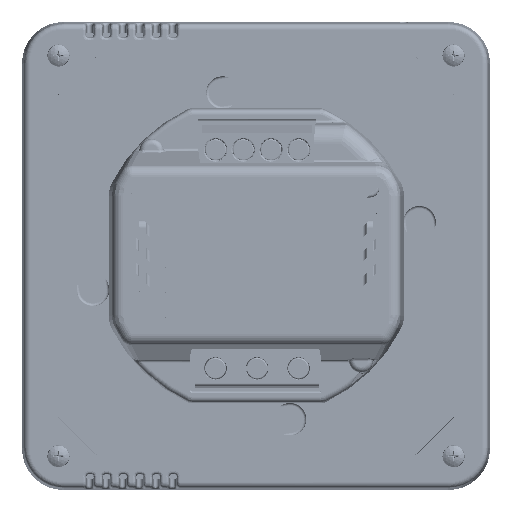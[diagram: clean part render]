
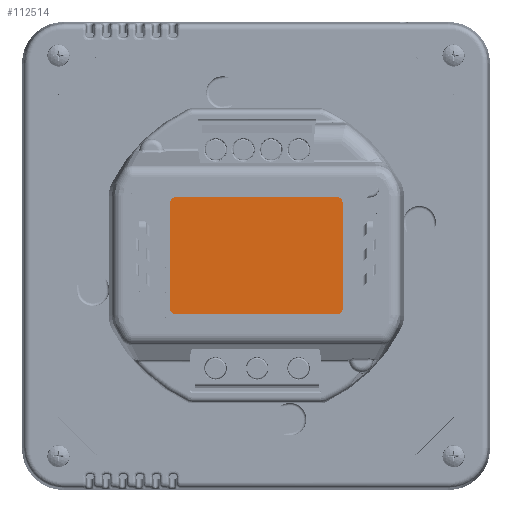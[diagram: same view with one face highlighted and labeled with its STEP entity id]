
A CAD part, top view. The second image highlights one B-rep face of the part: STEP entity #112514.
In plain terms, the highlighted planar face has unit normal (0, 0, 1) as drawn and (0, 0, -1) by its records, which use the part's own axes.
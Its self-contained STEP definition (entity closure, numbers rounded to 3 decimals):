
#9270=CIRCLE('',#119854,0.996);
#9271=CIRCLE('',#119857,0.996);
#9272=CIRCLE('',#119860,0.996);
#9273=CIRCLE('',#119863,0.996);
#13511=FACE_OUTER_BOUND('',#20109,.T.);
#20109=EDGE_LOOP('',(#85006,#85007,#85008,#85009,#85010,#85011,#85012,#85013));
#29321=LINE('',#181276,#39928);
#29324=LINE('',#181284,#39931);
#29327=LINE('',#181292,#39934);
#29329=LINE('',#181298,#39936);
#39928=VECTOR('',#134596,10.);
#39931=VECTOR('',#134605,10.);
#39934=VECTOR('',#134614,10.);
#39936=VECTOR('',#134622,10.);
#50803=VERTEX_POINT('',#181268);
#50804=VERTEX_POINT('',#181269);
#50805=VERTEX_POINT('',#181274);
#50806=VERTEX_POINT('',#181278);
#50807=VERTEX_POINT('',#181279);
#50808=VERTEX_POINT('',#181286);
#50809=VERTEX_POINT('',#181287);
#50810=VERTEX_POINT('',#181294);
#64121=EDGE_CURVE('',#50803,#50804,#9270,.T.);
#64125=EDGE_CURVE('',#50804,#50805,#29321,.F.);
#64126=EDGE_CURVE('',#50806,#50807,#9271,.T.);
#64129=EDGE_CURVE('',#50807,#50803,#29324,.F.);
#64130=EDGE_CURVE('',#50808,#50809,#9272,.T.);
#64133=EDGE_CURVE('',#50809,#50806,#29327,.F.);
#64134=EDGE_CURVE('',#50805,#50810,#9273,.T.);
#64136=EDGE_CURVE('',#50810,#50808,#29329,.F.);
#85006=ORIENTED_EDGE('',*,*,#64121,.T.);
#85007=ORIENTED_EDGE('',*,*,#64125,.T.);
#85008=ORIENTED_EDGE('',*,*,#64134,.T.);
#85009=ORIENTED_EDGE('',*,*,#64136,.T.);
#85010=ORIENTED_EDGE('',*,*,#64130,.T.);
#85011=ORIENTED_EDGE('',*,*,#64133,.T.);
#85012=ORIENTED_EDGE('',*,*,#64126,.T.);
#85013=ORIENTED_EDGE('',*,*,#64129,.T.);
#108663=PLANE('',#119865);
#112514=ADVANCED_FACE('',(#13511),#108663,.F.);
#119854=AXIS2_PLACEMENT_3D('',#181270,#134589,#134590);
#119857=AXIS2_PLACEMENT_3D('',#181280,#134599,#134600);
#119860=AXIS2_PLACEMENT_3D('',#181288,#134608,#134609);
#119863=AXIS2_PLACEMENT_3D('',#181295,#134617,#134618);
#119865=AXIS2_PLACEMENT_3D('',#181299,#134623,#134624);
#134589=DIRECTION('center_axis',(0.,0.,-1.));
#134590=DIRECTION('ref_axis',(-1.,0.,0.));
#134596=DIRECTION('',(-1.,0.,0.));
#134599=DIRECTION('center_axis',(0.,0.,-1.));
#134600=DIRECTION('ref_axis',(-1.,0.,0.));
#134605=DIRECTION('',(0.,-1.,0.));
#134608=DIRECTION('center_axis',(0.,0.,-1.));
#134609=DIRECTION('ref_axis',(0.,-1.,0.));
#134614=DIRECTION('',(1.,0.,0.));
#134617=DIRECTION('center_axis',(0.,0.,-1.));
#134618=DIRECTION('ref_axis',(0.,1.,0.));
#134622=DIRECTION('',(0.,1.,0.));
#134623=DIRECTION('center_axis',(0.,0.,1.));
#134624=DIRECTION('ref_axis',(1.,0.,0.));
#181268=CARTESIAN_POINT('',(-15.57,9.574,-23.3));
#181269=CARTESIAN_POINT('',(-14.574,10.57,-23.3));
#181270=CARTESIAN_POINT('Origin',(-14.574,9.574,-23.3));
#181274=CARTESIAN_POINT('',(14.574,10.57,-23.3));
#181276=CARTESIAN_POINT('',(-7.25,10.57,-23.3));
#181278=CARTESIAN_POINT('',(-14.574,-10.57,-23.3));
#181279=CARTESIAN_POINT('',(-15.57,-9.574,-23.3));
#181280=CARTESIAN_POINT('Origin',(-14.574,-9.574,-23.3));
#181284=CARTESIAN_POINT('',(-15.57,-4.75,-23.3));
#181286=CARTESIAN_POINT('',(15.57,-9.574,-23.3));
#181287=CARTESIAN_POINT('',(14.574,-10.57,-23.3));
#181288=CARTESIAN_POINT('Origin',(14.574,-9.574,-23.3));
#181292=CARTESIAN_POINT('',(7.25,-10.57,-23.3));
#181294=CARTESIAN_POINT('',(15.57,9.574,-23.3));
#181295=CARTESIAN_POINT('Origin',(14.574,9.574,-23.3));
#181298=CARTESIAN_POINT('',(15.57,4.75,-23.3));
#181299=CARTESIAN_POINT('Origin',(0.,0.,-23.3));
